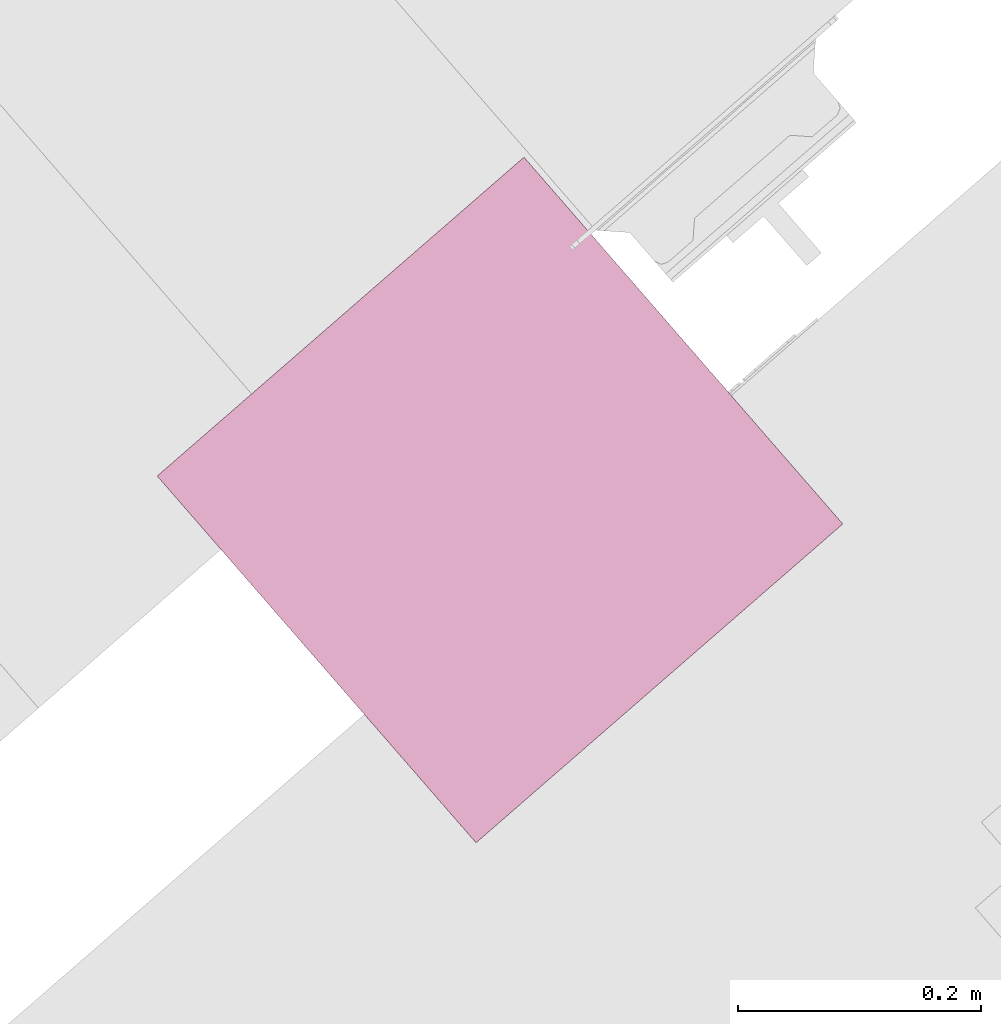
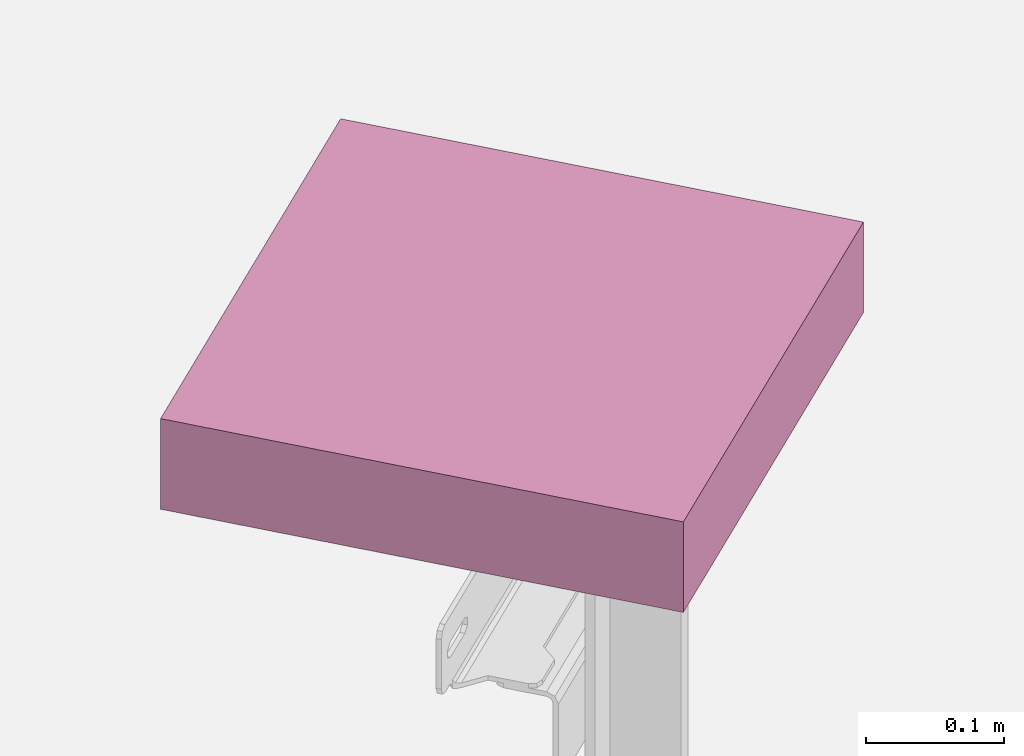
# One storey, part 124 of 124: 1 transport element.
"""IFC2X3 building model written with IfcOpenShell, lengths in millimetres."""

from ifc_helpers import new_model, entity, si_unit, converted_unit, derived_unit, money_unit, direction, frame, origin_with_axes, place, context, subcontext, project, spatial, faceted_brep, material, material_list, type_object, element, save


model = new_model("IFC2X3")

# Units and contexts
model_context = context("Model", 3, precision=1e-05, world=origin_with_axes(), true_north=direction((0.0, 1.0)))
body_context = subcontext(model_context, "Body", "Model", "MODEL_VIEW")
ifc_project = project(units=[si_unit("LENGTHUNIT", "METRE", prefix="MILLI"), si_unit("AREAUNIT", "SQUARE_METRE"), si_unit("VOLUMEUNIT", "CUBIC_METRE"), converted_unit("PLANEANGLEUNIT", "DEGREE", entity("IfcPlaneAngleMeasure", 0.0174532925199), si_unit("PLANEANGLEUNIT", "RADIAN"), dimensions=[0, 0, 0, 0, 0, 0, 0]), si_unit("SOLIDANGLEUNIT", "STERADIAN"), money_unit("EUR"), converted_unit("TIMEUNIT", "Year", entity("IfcTimeMeasure", 31556926.0), si_unit("TIMEUNIT", "SECOND"), dimensions=[0, 0, 1, 0, 0, 0, 0]), si_unit("MASSUNIT", "GRAM", prefix="KILO"), si_unit("THERMODYNAMICTEMPERATUREUNIT", "DEGREE_CELSIUS"), si_unit("LUMINOUSINTENSITYUNIT", "LUMEN"), si_unit("ENERGYUNIT", "JOULE", prefix="MEGA"), derived_unit("THERMALCONDUCTANCEUNIT", [(si_unit("POWERUNIT", "WATT"), 1), (si_unit("LENGTHUNIT", "METRE"), -1), (si_unit("THERMODYNAMICTEMPERATUREUNIT", "KELVIN"), -1)]), derived_unit("SPECIFICHEATCAPACITYUNIT", [(si_unit("ENERGYUNIT", "JOULE"), 1), (si_unit("MASSUNIT", "GRAM", prefix="KILO"), -1), (si_unit("THERMODYNAMICTEMPERATUREUNIT", "KELVIN"), -1)]), derived_unit("MASSDENSITYUNIT", [(si_unit("MASSUNIT", "GRAM", prefix="KILO"), 1), (si_unit("VOLUMEUNIT", "CUBIC_METRE"), -1)])], contexts=[model_context])

# Site, building, storey
site_placement = place(None, origin_with_axes())
site = spatial("IfcSite", under=ifc_project, at=site_placement, Name="Site", CompositionType="ELEMENT")
building_placement = place(site_placement, origin_with_axes())
building = spatial("IfcBuilding", under=site, at=building_placement, Name="Building", CompositionType="ELEMENT")
storey_placement = place(building_placement, frame((0.0, 0.0, -1615.0), z_axis=(0.0, 0.0, 1.0), x_axis=(1.0, 0.0, 0.0)))
storey = spatial("IfcBuildingStorey", under=building, at=storey_placement, Name="0  korrus", CompositionType="ELEMENT", Elevation=-1615.0)

# Transport element
ifc_material = material(Name="IFC Building Material")
ifc_material_list = material_list([ifc_material, ifc_material])
transport_element_type = type_object("IfcTransportElementType", Name="KONE_Hook_Embedded:KONE_Hook_Embedded", PredefinedType="NOTDEFINED")
transport_element_placement = place(storey_placement, frame((146714.873375, 78729.3746565, 10328.4047278), z_axis=(0.0, 0.0, 1.0), x_axis=(-0.656059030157, 0.754709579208, 0.0)))
element("IfcTransportElement", 1, at=transport_element_placement, inside=storey, type_object=transport_element_type, material=ifc_material_list, Name="KONE_Hook_Embedded:KONE_Hook_Embedded", ObjectType="KONE_Hook_Embedded", CapacityByNumber=0.0, CapacityByWeight=0.0, OperationType="ELEVATOR", context=body_context, shape_type="Brep", body=[
    faceted_brep([(168.699961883, 191.789630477, 81.5952722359), (170.75, 192.638784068, 81.5952722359), (172.51040764, 193.98959236, 81.5952722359), (173.861215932, 195.75, 81.5952722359), (174.710369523, 197.800038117, 81.5952722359), (175.0, 200.0, 81.5952722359), (174.710369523, 202.199961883, 81.5952722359), (173.861215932, 204.25, 81.5952722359), (172.51040764, 206.01040764, 81.5952722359), (170.75, 207.361215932, 81.5952722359), (168.699961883, 208.210369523, 81.5952722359), (166.5, 208.5, 81.5952722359), (164.300038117, 208.210369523, 81.5952722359), (162.25, 207.361215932, 81.5952722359), (160.48959236, 206.01040764, 81.5952722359), (159.138784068, 204.25, 81.5952722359), (158.289630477, 202.199961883, 81.5952722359), (158.0, 200.0, 81.5952722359), (158.289630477, 197.800038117, 81.5952722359), (159.138784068, 195.75, 81.5952722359), (160.48959236, 193.98959236, 81.5952722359), (162.25, 192.638784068, 81.5952722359), (164.300038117, 191.789630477, 81.5952722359), (166.5, 191.5, 81.5952722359), (168.699961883, 191.789630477, 43.5952722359), (170.75, 192.638784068, 43.5952722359), (172.51040764, 193.98959236, 43.5952722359), (173.861215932, 195.75, 43.5952722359), (174.710369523, 197.800038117, 43.5952722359), (175.0, 200.0, 43.5952722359), (174.710369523, 202.199961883, 43.5952722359), (173.861215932, 204.25, 43.5952722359), (172.51040764, 206.01040764, 43.5952722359), (170.75, 207.361215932, 43.5952722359), (168.699961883, 208.210369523, 43.5952722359), (166.5, 208.5, 43.5952722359), (164.300038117, 208.210369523, 43.5952722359), (162.25, 207.361215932, 43.5952722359), (160.48959236, 206.01040764, 43.5952722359), (159.138784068, 204.25, 43.5952722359), (158.289630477, 202.199961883, 43.5952722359), (158.0, 200.0, 43.5952722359), (158.289630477, 197.800038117, 43.5952722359), (159.138784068, 195.75, 43.5952722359), (160.48959236, 193.98959236, 43.5952722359), (162.25, 192.638784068, 43.5952722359), (164.300038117, 191.789630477, 43.5952722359), (166.5, 191.5, 43.5952722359), (163.610679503, 192.655101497, 33.446130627), (166.908799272, 191.924527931, 29.035421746), (172.228591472, 192.622574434, 34.3237089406), (172.251319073, 207.345158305, 34.4326313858), (166.96126726, 208.136471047, 29.3998944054), (163.635953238, 207.377169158, 33.5641172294), (161.809659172, 200.0, 29.3774306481), (159.904829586, 200.0, 36.486351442), (158.952414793, 200.0, 40.040811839), (177.38728757, 200.0, 36.2479565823), (163.626933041, 200.0, 22.5952722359), (173.241658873, 191.517752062, 24.3662461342), (173.267388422, 208.40457765, 25.59149626), (168.696753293, 193.548516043, 20.2761285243), (177.049050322, 191.500004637, 19.204512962), (178.559443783, 206.847961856, 24.8726904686), (169.138053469, 206.538085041, 19.8630559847), (171.313466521, 200.0, 14.9087387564), (174.041753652, 194.015389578, 13.774604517), (179.774575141, 200.0, 28.9006409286), (173.726458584, 206.140624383, 14.2648564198), (179.228250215, 193.827045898, 10.1822071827), (181.944750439, 191.504558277, 15.7082314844), (186.024575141, 200.0, 24.3597501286), (181.261740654, 208.497237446, 16.0878882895), (179.0, 200.0, 7.22220527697), (181.938024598, 205.652252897, 8.07543109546), (186.221675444, 193.11016034, 7.66880063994), (188.508909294, 192.004177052, 15.2174447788), (189.167875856, 206.578080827, 17.6487989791), (186.514291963, 208.429350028, 11.7384689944), (189.5, 200.0, 4.40873875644), (192.274575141, 200.0, 19.8188593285), (194.491029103, 191.521330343, 9.94138885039), (193.734941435, 193.774557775, 16.6001271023), (192.619579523, 208.399663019, 9.58467364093), (199.112736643, 207.344070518, 14.3883053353), (200.0, 200.0, 1.59527223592), (200.0, 200.0, 19.8188593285), (199.149382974, 207.911739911, 6.99800772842), (200.850616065, 192.088259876, 6.99800824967), (200.8872622, 192.655929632, 14.3883055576), (206.265057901, 206.22544207, 16.6001271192), (210.5, 200.0, 4.40873875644), (205.508970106, 208.478669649, 9.94138860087), (207.725424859, 200.0, 19.8188593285), (207.380419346, 191.600336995, 9.58467330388), (210.507529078, 193.432724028, 17.5298650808), (211.491090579, 207.995822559, 15.2174458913), (213.515302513, 191.81802762, 10.4408604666), (213.778324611, 206.889839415, 7.668800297), (213.975424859, 200.0, 24.3597501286), (218.370700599, 194.277193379, 8.30571902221), (221.0, 200.0, 7.22220527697), (218.172480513, 191.510580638, 15.9586287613), (218.055250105, 208.495441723, 15.7082318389), (220.771750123, 206.172954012, 10.1822072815), (220.225424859, 200.0, 28.9006409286), (223.93391669, 193.179663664, 13.3458698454), (225.958246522, 205.98461041, 13.7746046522), (222.494752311, 191.632531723, 20.8291456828), (222.950950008, 208.499995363, 19.2045132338), (224.84326674, 200.0, 11.0654720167), (228.686533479, 200.0, 14.9087387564), (222.61271243, 200.0, 36.2479565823), (226.758341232, 191.517752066, 24.3662463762), (231.303246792, 193.548516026, 20.2761286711), (226.758341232, 208.482247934, 24.3662463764), (231.303246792, 206.451483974, 20.2761286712), (236.373066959, 200.0, 22.5952722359), (233.091200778, 191.924527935, 29.0354218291), (227.771408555, 192.622574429, 34.3237089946), (227.771408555, 207.377425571, 34.3237089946), (233.091200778, 208.075472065, 29.0354218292), (236.389320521, 192.655101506, 33.4461306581), (225.0, 200.0, 43.5952722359), (236.389320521, 207.344898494, 33.4461306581), (229.25, 192.638784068, 43.5952722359), (238.190340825, 200.0, 29.3774306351), (225.289630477, 197.800038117, 43.5952722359), (227.48959236, 193.98959236, 43.5952722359), (225.289630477, 202.199961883, 43.5952722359), (227.48959236, 206.01040764, 43.5952722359), (229.25, 207.361215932, 43.5952722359), (231.300038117, 191.789630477, 43.5952722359), (235.699961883, 191.789630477, 43.5952722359), (226.138784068, 195.75, 43.5952722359), (225.0, 200.0, 81.5952722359), (225.289630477, 197.800038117, 81.5952722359), (226.138784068, 204.25, 43.5952722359), (225.289630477, 202.199961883, 81.5952722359), (235.699961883, 208.210369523, 43.5952722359), (231.300038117, 208.210369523, 43.5952722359), (231.300038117, 191.789630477, 81.5952722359), (229.25, 192.638784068, 81.5952722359), (233.5, 191.5, 43.5952722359), (227.48959236, 193.98959236, 81.5952722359), (237.75, 192.638784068, 43.5952722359), (226.138784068, 195.75, 81.5952722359), (233.5, 191.5, 81.5952722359), (235.699961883, 191.789630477, 81.5952722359), (237.75, 192.638784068, 81.5952722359), (239.51040764, 193.98959236, 81.5952722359), (240.861215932, 195.75, 81.5952722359), (241.710369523, 197.800038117, 81.5952722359), (242.0, 200.0, 81.5952722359), (241.710369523, 202.199961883, 81.5952722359), (240.861215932, 204.25, 81.5952722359), (239.51040764, 206.01040764, 81.5952722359), (237.75, 207.361215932, 81.5952722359), (235.699961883, 208.210369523, 81.5952722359), (233.5, 208.5, 81.5952722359), (231.300038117, 208.210369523, 81.5952722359), (229.25, 207.361215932, 81.5952722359), (227.48959236, 206.01040764, 81.5952722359), (226.138784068, 204.25, 81.5952722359), (233.5, 208.5, 43.5952722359), (237.75, 207.361215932, 43.5952722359), (240.095170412, 200.0, 36.4863514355), (239.51040764, 193.98959236, 43.5952722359), (240.861215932, 195.75, 43.5952722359), (241.710369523, 197.800038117, 43.5952722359), (242.0, 200.0, 43.5952722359), (241.710369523, 202.199961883, 43.5952722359), (240.861215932, 204.25, 43.5952722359), (239.51040764, 206.01040764, 43.5952722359), (241.047585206, 200.0, 40.0408118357)], [[[0, 1, 2, 3, 4, 5, 6, 7, 8, 9, 10, 11, 12, 13, 14, 15, 16, 17, 18, 19, 20, 21, 22, 23]], [[24, 25, 1, 0]], [[25, 26, 2, 1]], [[3, 2, 26, 27]], [[28, 4, 3, 27]], [[29, 5, 4, 28]], [[29, 30, 6, 5]], [[30, 31, 7, 6]], [[8, 7, 31, 32]], [[33, 9, 8, 32]], [[34, 10, 9, 33]], [[34, 35, 11, 10]], [[11, 35, 36, 12]], [[36, 37, 13, 12]], [[37, 38, 14, 13]], [[15, 14, 38, 39]], [[40, 16, 15, 39]], [[41, 17, 16, 40]], [[41, 42, 18, 17]], [[42, 43, 19, 18]], [[20, 19, 43, 44]], [[45, 21, 20, 44]], [[46, 22, 21, 45]], [[46, 47, 23, 22]], [[23, 47, 24, 0]], [[25, 24, 48]], [[26, 25, 49]], [[26, 50, 27]], [[28, 27, 50]], [[28, 50, 29]], [[51, 30, 29]], [[30, 51, 31]], [[51, 32, 31]], [[32, 52, 33]], [[34, 33, 53]], [[53, 35, 34]], [[36, 35, 53]], [[36, 54, 37]], [[37, 55, 38]], [[38, 55, 39]], [[40, 39, 56]], [[56, 41, 40]], [[42, 41, 56]], [[42, 56, 43]], [[44, 43, 55]], [[45, 44, 55]], [[46, 45, 54]], [[48, 47, 46]], [[24, 47, 48]], [[49, 25, 48]], [[26, 49, 50]], [[50, 57, 29]], [[57, 51, 29]], [[51, 52, 32]], [[53, 33, 52]], [[54, 36, 53]], [[54, 55, 37]], [[39, 55, 56]], [[43, 56, 55]], [[55, 54, 45]], [[48, 46, 54]], [[48, 58, 49]], [[50, 49, 59]], [[59, 57, 50]], [[51, 57, 60]], [[51, 60, 52]], [[53, 52, 58]], [[58, 54, 53]], [[58, 48, 54]], [[58, 61, 49]], [[59, 49, 61]], [[57, 59, 62]], [[60, 57, 63]], [[64, 52, 60]], [[52, 64, 58]], [[65, 61, 58]], [[59, 61, 66]], [[59, 66, 62]], [[67, 57, 62]], [[67, 63, 57]], [[60, 63, 68]], [[60, 68, 64]], [[65, 58, 64]], [[66, 61, 65]], [[66, 69, 62]], [[70, 67, 62]], [[71, 63, 67]], [[68, 63, 72]], [[65, 64, 68]], [[73, 66, 65]], [[66, 73, 69]], [[70, 62, 69]], [[67, 70, 71]], [[71, 72, 63]], [[72, 74, 68]], [[65, 68, 73]], [[73, 75, 69]], [[75, 70, 69]], [[76, 71, 70]], [[77, 72, 71]], [[72, 78, 74]], [[74, 73, 68]], [[75, 73, 79]], [[70, 75, 76]], [[76, 80, 71]], [[72, 77, 78]], [[77, 71, 80]], [[78, 79, 74]], [[73, 74, 79]], [[75, 79, 81]], [[81, 76, 75]], [[82, 80, 76]], [[77, 83, 78]], [[80, 84, 77]], [[78, 83, 79]], [[85, 81, 79]], [[76, 81, 82]], [[86, 80, 82]], [[84, 83, 77]], [[86, 84, 80]], [[83, 87, 79]], [[88, 81, 85]], [[79, 87, 85]], [[82, 81, 89]], [[89, 86, 82]], [[83, 84, 87]], [[90, 84, 86]], [[88, 89, 81]], [[91, 88, 85]], [[87, 92, 85]], [[86, 89, 93]], [[87, 84, 92]], [[90, 92, 84]], [[86, 93, 90]], [[94, 89, 88]], [[94, 88, 91]], [[85, 92, 91]], [[89, 95, 93]], [[96, 92, 90]], [[90, 93, 96]], [[95, 89, 94]], [[94, 91, 97]], [[98, 91, 92]], [[95, 99, 93]], [[92, 96, 98]], [[96, 93, 99]], [[94, 97, 95]], [[100, 97, 91]], [[98, 101, 91]], [[99, 95, 102]], [[103, 98, 96]], [[96, 99, 103]], [[97, 102, 95]], [[102, 97, 100]], [[100, 91, 101]], [[101, 98, 104]], [[102, 105, 99]], [[98, 103, 104]], [[105, 103, 99]], [[100, 106, 102]], [[101, 106, 100]], [[104, 107, 101]], [[108, 105, 102]], [[103, 109, 104]], [[103, 105, 109]], [[102, 106, 108]], [[110, 106, 101]], [[107, 104, 109]], [[107, 111, 110, 101]], [[105, 108, 112]], [[105, 112, 109]], [[113, 108, 106]], [[114, 106, 110]], [[115, 107, 109]], [[107, 116, 111]], [[114, 110, 111, 117]], [[113, 112, 108]], [[112, 115, 109]], [[114, 113, 106]], [[115, 116, 107]], [[111, 116, 117]], [[118, 114, 117]], [[119, 112, 113]], [[115, 112, 120]], [[113, 114, 118]], [[115, 121, 116]], [[117, 116, 121]], [[122, 118, 117]], [[112, 119, 123]], [[119, 113, 118]], [[120, 112, 123]], [[120, 121, 115]], [[124, 117, 121]], [[118, 122, 125]], [[122, 117, 126]], [[123, 119, 127]], [[118, 128, 119]], [[129, 120, 123]], [[130, 121, 120]], [[117, 124, 126]], [[121, 131, 124]], [[132, 125, 122]], [[125, 128, 118]], [[133, 122, 126]], [[134, 127, 119]], [[135, 123, 127, 136]], [[134, 119, 128]], [[120, 129, 137]], [[135, 138, 129, 123]], [[131, 121, 130]], [[130, 120, 137]], [[124, 139, 126]], [[131, 140, 124]], [[141, 142, 125, 132]], [[132, 122, 143]], [[142, 144, 128, 125]], [[133, 143, 122]], [[133, 126, 145]], [[136, 127, 134, 146]], [[147, 148, 149, 150, 151, 152, 153, 154, 155, 156, 157, 158, 159, 160, 161, 162, 163, 138, 135, 136, 146, 144, 142, 141]], [[134, 128, 144, 146]], [[138, 163, 137, 129]], [[161, 131, 130, 162]], [[130, 137, 163, 162]], [[139, 124, 164]], [[126, 139, 165]], [[160, 140, 131, 161]], [[140, 164, 124]], [[143, 147, 141, 132]], [[148, 147, 143, 133]], [[126, 166, 145]], [[148, 133, 145, 149]], [[149, 145, 167, 150]], [[167, 168, 151, 150]], [[152, 151, 168, 169]], [[153, 152, 169, 170]], [[153, 170, 171, 154]], [[154, 171, 172, 155]], [[172, 173, 156, 155]], [[157, 156, 173, 165]], [[158, 157, 165, 139]], [[164, 159, 158, 139]], [[160, 159, 164, 140]], [[166, 126, 165]], [[167, 145, 166]], [[168, 167, 166]], [[169, 168, 174]], [[174, 170, 169]], [[170, 174, 171]], [[171, 174, 172]], [[173, 172, 166]], [[166, 165, 173]], [[168, 166, 174]], [[172, 174, 166]]]),
    faceted_brep([(0.0, 0.0, 81.5952722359), (400.0, 0.0, 81.5952722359), (400.0, 400.0, 81.5952722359), (0.0, 400.0, 81.5952722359), (0.0, 0.0, 1.59527223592), (400.0, 0.0, 1.59527223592), (400.0, 400.0, 1.59527223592), (0.0, 400.0, 1.59527223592)], [[[0, 1, 2, 3]], [[0, 4, 5, 1]], [[1, 5, 6, 2]], [[2, 6, 7, 3]], [[3, 7, 4, 0]], [[4, 7, 6, 5]]]),
])

save(model, "model.ifc")
